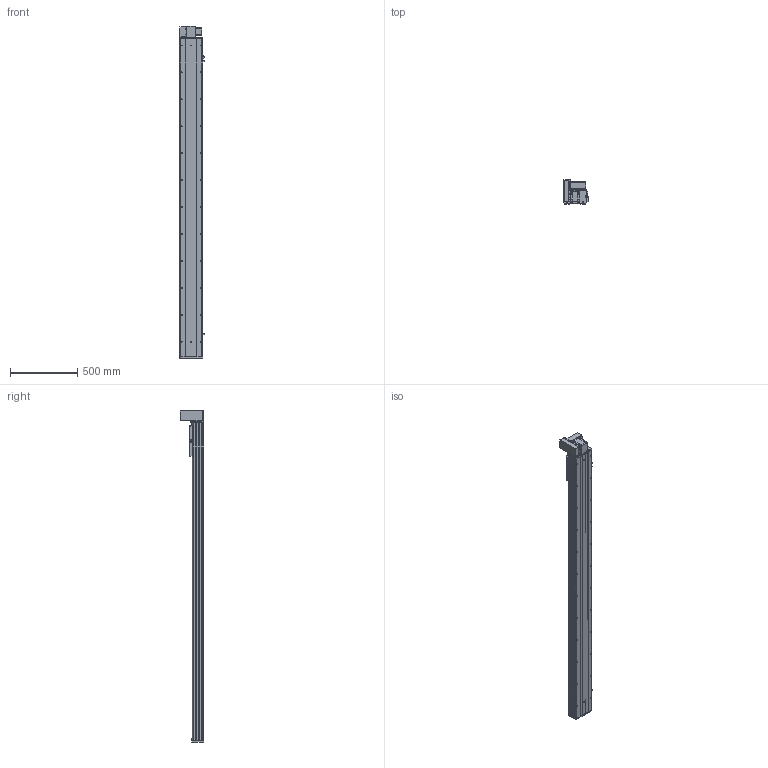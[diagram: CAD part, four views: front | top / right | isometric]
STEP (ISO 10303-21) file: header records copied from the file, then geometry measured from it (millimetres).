
FILE_DESCRIPTION (( 'STEP AP203' ), '1' );
FILE_NAME ('Y170CB-D105-S2050-UL-P400W.STEP', '2020-02-20T02:52:18', ( '微软用户' ), ( '微软中国' ), 'SwSTEP 2.0', 'SolidWorks 2017', '' );
FILE_SCHEMA (( 'CONFIG_CONTROL_DESIGN' ));
Length unit declared in the file: millimetre
Products named in the file (18): 70B喘謫眊----; 70CB--耜裔; Y1埴倛裔; 70C-雄赽釱-奻-; B-源倛裔啣; 17B-耜蚾蟀諉啣----; 0B-萇儂楊擘啣; 00B-俋欶BM--163; san松下电机400不带刹车----; Y170CB-D105-S2050-UL-P400W; 0C--雄赽釱俋欶-170; 70CB-掛极-; 70CB-詩湍--; --70CB --喘謫眊楊擘啣-; Y100-135俋离換覜ん--; 70CB-耜裔啣-; Y170CB-陔俋离換覜結え---; 70C--詩湍揤踡え-
Assembly tree (21 placements, depth 2):
  Y170CB-D105-S2050-UL-P400W
    B-源倛裔啣
    0B-萇儂楊擘啣
    san松下电机400不带刹车----
    70CB-掛极-
    --70CB --喘謫眊楊擘啣-
    70CB-耜裔啣-  x2
    70C--詩湍揤踡え-  x2
    70CB--耜裔
    70C-雄赽釱-奻-
    0C--雄赽釱俋欶-170
    70CB-詩湍--
    Y100-135俋离換覜ん--  x3
    Y170CB-陔俋离換覜結え---
    70B喘謫眊----
    Y1埴倛裔
    17B-耜蚾蟀諉啣----
    00B-俋欶BM--163
Bounding box: 183.5 x 174 x 2466 mm (x, y, z)
Volume: 10674099.5 mm3; surface area: 3848957.1 mm2
Topology: 21 solids, 21 shells, 1047 faces, 2813 edges, 1866 vertices
Faces by surface type: cylinder 561, plane 462, cone 24
Entity records: 33496 total; most frequent: CARTESIAN_POINT 6156, DIRECTION 5450, ORIENTED_EDGE 5108, EDGE_CURVE 2554, AXIS2_PLACEMENT_3D 2008, VERTEX_POINT 1696, VECTOR 1434, LINE 1434
